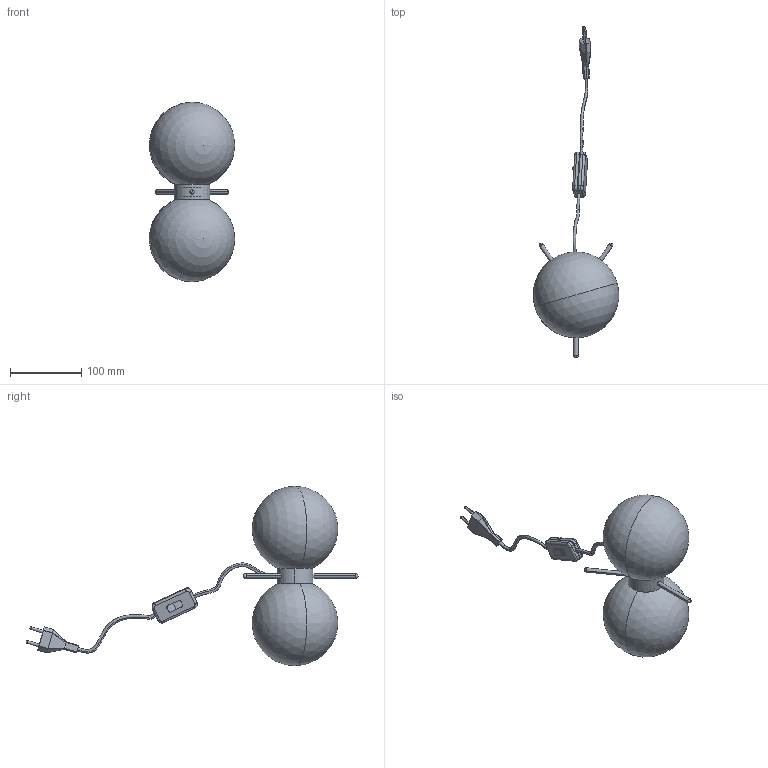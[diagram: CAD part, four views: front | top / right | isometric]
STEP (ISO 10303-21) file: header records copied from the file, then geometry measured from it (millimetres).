
FILE_DESCRIPTION (( 'STEP AP203' ), '1' );
FILE_NAME ('7412MT0LB.STEP', '2023-11-30T09:13:16', ( '' ), ( '' ), 'SwSTEP 2.0', 'SolidWorks 2020', '' );
FILE_SCHEMA (( 'CONFIG_CONTROL_DESIGN' ));
Length unit declared in the file: millimetre
Products named in the file (15): 7412C008; 7412MT0LB; 7401^BICCHIERINO X G9 CON FILETTO X VETRO COLOSIO 740; CABL.TRAS. 2x0,75 100+100 PLUS; 7403^BICCHIERINO X G9 CON FILETTO X VETRO COLOSIO 740; GRANO M6x8_STEAB_5068_8_16_5068-08-02-06; INTERRUTTORE CL.2; BICCHIERINO X G9 CON FILETTO X VETRO COLOSIO 740; NIPPLO OTTONE M10X1 L=10 TESTA CH.13 C_FRESATA; PTL G9 COLOSIO A66; 7412C009; VITE TSP M3x8 IC ZN UNI7688 DIN965 ISO7046; 7412C001; SPINA 2 POLI EU; 7412C006
Assembly tree (23 placements, depth 3):
  7412MT0LB
    7412C008
    7412C006  x2
    GRANO M6x8_STEAB_5068_8_16_5068-08-02-06
    VITE TSP M3x8 IC ZN UNI7688 DIN965 ISO7046  x4
    NIPPLO OTTONE M10X1 L=10 TESTA CH.13 C_FRESATA  x2
    7412C001  x3
    7412C009  x2
    CABL.TRAS. 2x0,75 100+100 PLUS
      INTERRUTTORE CL.2
      SPINA 2 POLI EU
    BICCHIERINO X G9 CON FILETTO X VETRO COLOSIO 740  x2
      7401^BICCHIERINO X G9 CON FILETTO X VETRO COLOSIO 740
      7403^BICCHIERINO X G9 CON FILETTO X VETRO COLOSIO 740
    PTL G9 COLOSIO A66
Bounding box: 119.79 x 464.77 x 251.38 mm (x, y, z)
Volume: 261481.6 mm3; surface area: 224296 mm2
Topology: 22 solids, 22 shells, 1067 faces, 2523 edges, 1494 vertices
Faces by surface type: bspline 618, plane 206, cylinder 134, cone 71, torus 20, sphere 18
Entity records: 25228 total; most frequent: CARTESIAN_POINT 11698, ORIENTED_EDGE 2970, DIRECTION 1628, EDGE_CURVE 1485, VERTEX_POINT 899, EDGE_LOOP 664, FACE_OUTER_BOUND 625, ADVANCED_FACE 625
